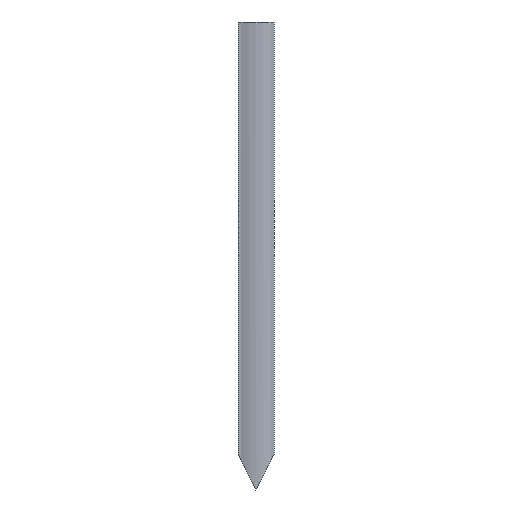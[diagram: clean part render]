
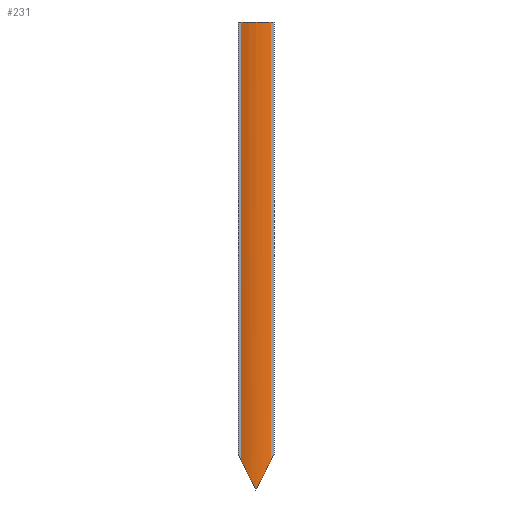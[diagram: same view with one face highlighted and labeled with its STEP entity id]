
A CAD part, front view. The second image highlights one B-rep face of the part: STEP entity #231.
In plain terms, the highlighted cylindrical face has radius 120.786 mm (diameter 241.571 mm), a partial arc.
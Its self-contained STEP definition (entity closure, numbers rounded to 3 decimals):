
#64 = VERTEX_POINT('',#65);
#65 = CARTESIAN_POINT('',(9.478,7.,81.043));
#88 = VERTEX_POINT('',#89);
#89 = CARTESIAN_POINT('',(50.,0.,0.));
#95 = EDGE_CURVE('',#88,#64,#96,.T.);
#96 = ELLIPSE('',#97,270.085,120.786);
#97 = AXIS2_PLACEMENT_3D('',#98,#99,#100);
#98 = CARTESIAN_POINT('',(50.,120.786,0.));
#99 = DIRECTION('',(-0.894,0.,-0.447));
#100 = DIRECTION('',(0.447,0.,-0.894));
#163 = VERTEX_POINT('',#164);
#164 = CARTESIAN_POINT('',(90.522,7.,1300.));
#170 = EDGE_CURVE('',#163,#171,#173,.T.);
#171 = VERTEX_POINT('',#172);
#172 = CARTESIAN_POINT('',(9.478,7.,1300.));
#173 = CIRCLE('',#174,120.786);
#174 = AXIS2_PLACEMENT_3D('',#175,#176,#177);
#175 = CARTESIAN_POINT('',(50.,120.786,1300.));
#176 = DIRECTION('',(-0.,0.,-1.));
#177 = DIRECTION('',(0.335,-0.942,-0.));
#219 = EDGE_CURVE('',#64,#171,#220,.T.);
#220 = LINE('',#221,#222);
#221 = CARTESIAN_POINT('',(9.478,7.,0.));
#222 = VECTOR('',#223,1.);
#223 = DIRECTION('',(0.,0.,1.));
#231 = ADVANCED_FACE('',(#232),#252,.T.);
#232 = FACE_BOUND('',#233,.T.);
#233 = EDGE_LOOP('',(#234,#243,#249,#250,#251));
#234 = ORIENTED_EDGE('',*,*,#235,.F.);
#235 = EDGE_CURVE('',#236,#88,#238,.T.);
#236 = VERTEX_POINT('',#237);
#237 = CARTESIAN_POINT('',(90.522,7.,81.043));
#238 = ELLIPSE('',#239,270.085,120.786);
#239 = AXIS2_PLACEMENT_3D('',#240,#241,#242);
#240 = CARTESIAN_POINT('',(50.,120.786,0.));
#241 = DIRECTION('',(0.894,0.,-0.447));
#242 = DIRECTION('',(-0.447,0.,-0.894));
#243 = ORIENTED_EDGE('',*,*,#244,.T.);
#244 = EDGE_CURVE('',#236,#163,#245,.T.);
#245 = LINE('',#246,#247);
#246 = CARTESIAN_POINT('',(90.522,7.,0.));
#247 = VECTOR('',#248,1.);
#248 = DIRECTION('',(0.,0.,1.));
#249 = ORIENTED_EDGE('',*,*,#170,.T.);
#250 = ORIENTED_EDGE('',*,*,#219,.F.);
#251 = ORIENTED_EDGE('',*,*,#95,.F.);
#252 = CYLINDRICAL_SURFACE('',#253,120.786);
#253 = AXIS2_PLACEMENT_3D('',#254,#255,#256);
#254 = CARTESIAN_POINT('',(50.,120.786,0.));
#255 = DIRECTION('',(-0.,0.,-1.));
#256 = DIRECTION('',(0.335,-0.942,-0.));
